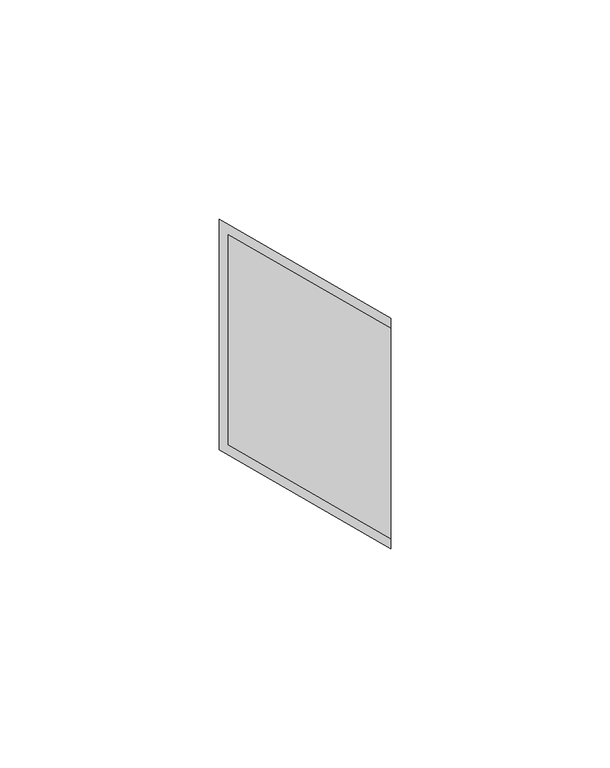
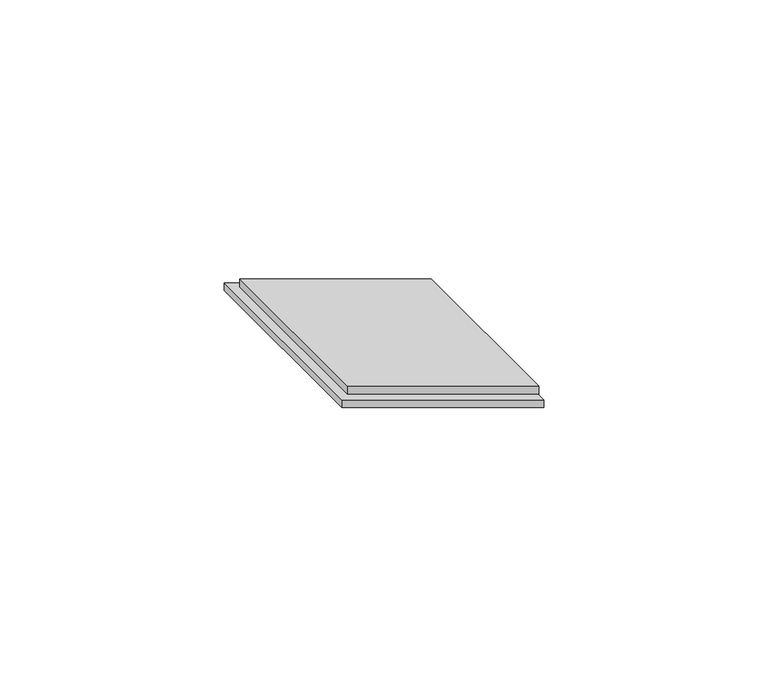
"""IFC4 building model written with IfcOpenShell, lengths in millimetres: proxy geometry, PBSHOP - CUBICA ARGENTO 4,8X8,3 : CUBICA ARGENTO - POSIÇÃO 01."""

from ifc_helpers import new_model, si_unit, frame, origin, origin_with_axes, place, context, project, spatial, polyline, outline, extrude, source, transform, mapped, element, save


def generic_models_3c04e8e5(model_context):
    return source(origin(), model_context, "Body", "SweptSolid", [
        extrude(outline(polyline([(-22.7076581, -13.1991285), (-22.7076581, 39.339746), (16.3119765, 16.8117494), (16.3119765, -35.7271251), (-22.7076581, -13.1991285)])), origin_with_axes(), (0.0, 0.0, 1.0), 2.0),
        extrude(outline(polyline([(-20.7076581, -12.044428), (-20.7076581, 35.8756443), (16.3119765, 14.5023483), (16.3119765, -33.417724), (-20.7076581, -12.044428)])), frame((0.0, 0.0, 2.0), z_axis=(0.0, 0.0, 1.0), x_axis=(1.0, 0.0, 0.0)), (0.0, 0.0, 1.0), 2.5),
    ])


if __name__ == "__main__":
    model = new_model("IFC4")
    model_context = context("Model", 3, world=origin())
    ifc_project = project(units=[si_unit("LENGTHUNIT", "METRE", prefix="MILLI")], contexts=[model_context])
    site = spatial("IfcSite", under=ifc_project)
    building = spatial("IfcBuilding", under=site)
    placement = place(None, origin())
    generic_models_shape = generic_models_3c04e8e5(model_context)
    element("IfcBuildingElementProxy", 1, Name="PBSHOP - CUBICA ARGENTO 4,8X8,3 : CUBICA ARGENTO - POSIÇÃO 01", ObjectType="PBSHOP - CUBICA ARGENTO 4,8X8,3 : CUBICA ARGENTO - POSIÇÃO 01", at=placement, inside=building, context=model_context, shape_type="MappedRepresentation", body=[
        mapped(generic_models_shape, transform((0.0, 0.0, 0.0), x_axis=(1.0, 0.0, 0.0), y_axis=(0.0, 1.0, 0.0), z_axis=(0.0, 0.0, 1.0))),
    ])
    save(model, "model.ifc")
